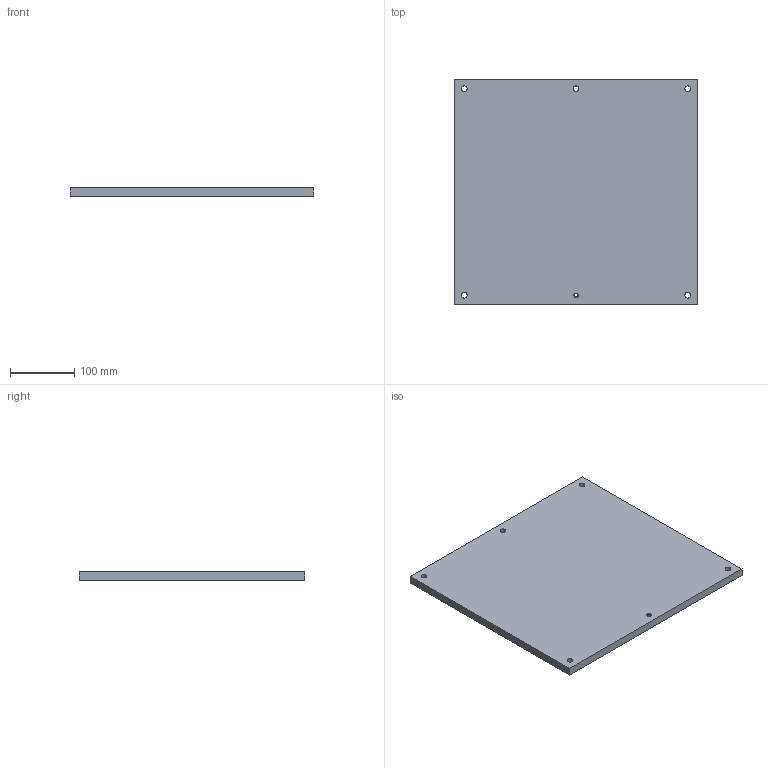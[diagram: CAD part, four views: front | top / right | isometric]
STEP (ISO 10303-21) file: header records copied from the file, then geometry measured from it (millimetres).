
FILE_DESCRIPTION(/* description */ (''),/* implementation_level */ '2;1');
FILE_NAME(/* name */ 'Cartex - panneau dessous',/* time_stamp */ '2024-11-29T00:14:00-05:00',/* author */ (''),/* organization */ (''),/* preprocessor_version */ 'ST-DEVELOPER v19.2',/* originating_system */ 'Rhino 8.13',/* authorisation */ '');
FILE_SCHEMA (('CONFIG_CONTROL_DESIGN'));
Length unit declared in the file: millimetre
Products named in the file (1): Document
Bounding box: 381 x 352.43 x 12.7 mm (x, y, z)
Volume: 1699142.5 mm3; surface area: 288426.7 mm2
Topology: 1 solids, 1 shells, 52 faces, 146 edges, 96 vertices
Faces by surface type: cylinder 27, bspline 19, plane 6
Entity records: 3977 total; most frequent: CARTESIAN_POINT 2803, ORIENTED_EDGE 292, EDGE_CURVE 146, DIRECTION 119, VERTEX_POINT 96, AXIS2_PLACEMENT_3D 76, EDGE_LOOP 64, B_SPLINE_CURVE_WITH_KNOTS 64
